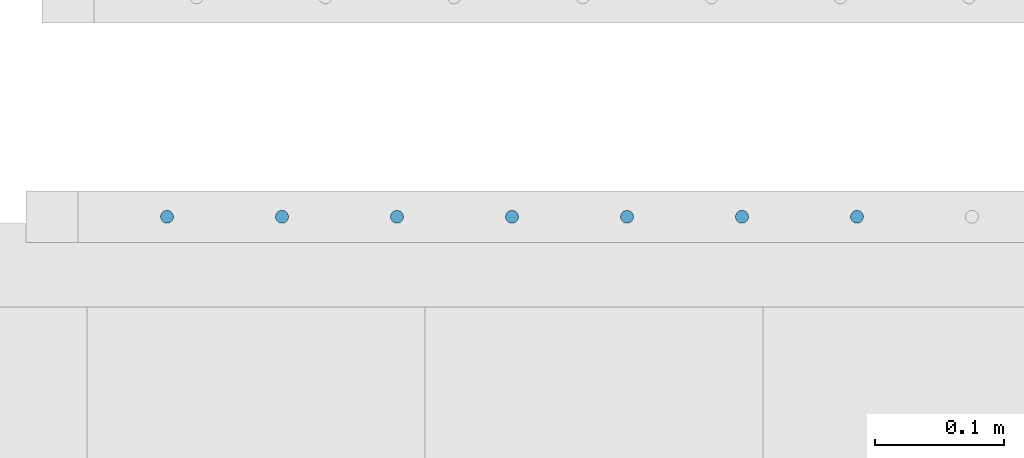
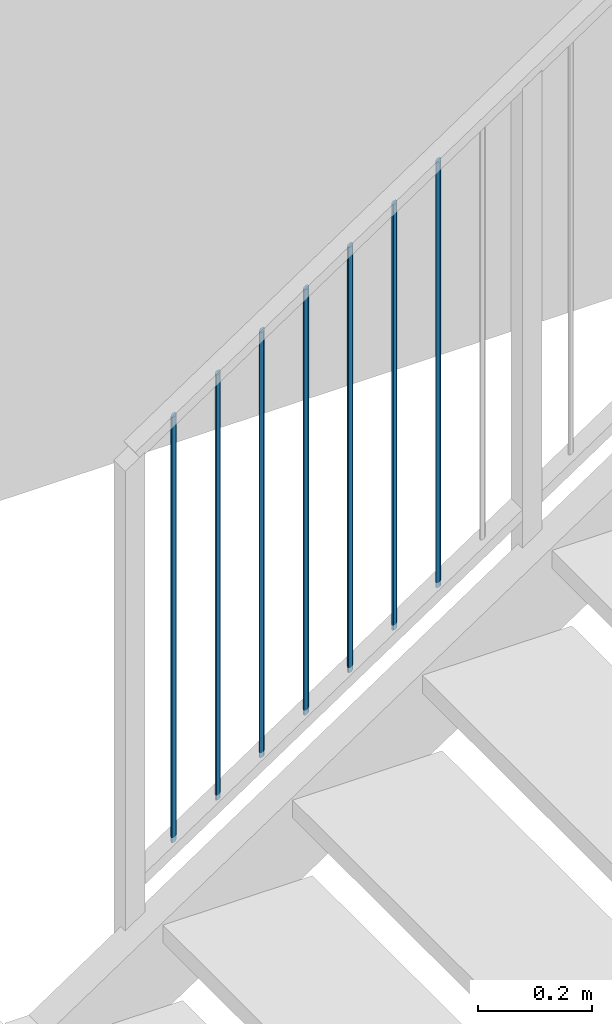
# One storey, part 6 of 117: 7 members, 1 element without a shape of its own.
"""IFC2X3 building model written with IfcOpenShell, lengths in millimetres."""

from ifc_helpers import new_model, entity, si_unit, converted_unit, derived_unit, money_unit, direction, frame, origin_with_axes, place, context, subcontext, project, spatial, faceted_brep, source, transform, mapped, material, type_object, type_shapes, element, aggregate, save


model = new_model("IFC2X3")

# Units and contexts
model_context = context("Model", 3, precision=0.01, world=origin_with_axes(), true_north=direction((0.0, 1.0)))
body_context = subcontext(model_context, "Body", "Model", "MODEL_VIEW")
ifc_project = project(units=[si_unit("LENGTHUNIT", "METRE", prefix="MILLI"), si_unit("AREAUNIT", "SQUARE_METRE"), si_unit("VOLUMEUNIT", "CUBIC_METRE"), converted_unit("PLANEANGLEUNIT", "DEGREE", entity("IfcPlaneAngleMeasure", 0.0174532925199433), si_unit("PLANEANGLEUNIT", "RADIAN"), dimensions=[0, 0, 0, 0, 0, 0, 0]), money_unit("EUR"), converted_unit("TIMEUNIT", "Year", entity("IfcTimeMeasure", 31557600.0), si_unit("TIMEUNIT", "SECOND"), dimensions=[0, 0, 1, 0, 0, 0, 0]), si_unit("MASSUNIT", "GRAM", prefix="KILO"), si_unit("THERMODYNAMICTEMPERATUREUNIT", "DEGREE_CELSIUS"), si_unit("LUMINOUSINTENSITYUNIT", "LUMEN"), si_unit("ENERGYUNIT", "JOULE", prefix="MEGA"), derived_unit("THERMALCONDUCTANCEUNIT", [(si_unit("POWERUNIT", "WATT"), 1), (si_unit("LENGTHUNIT", "METRE"), -1), (si_unit("THERMODYNAMICTEMPERATUREUNIT", "KELVIN"), -1)]), derived_unit("SPECIFICHEATCAPACITYUNIT", [(si_unit("ENERGYUNIT", "JOULE"), 1), (si_unit("MASSUNIT", "GRAM", prefix="KILO"), -1), (si_unit("THERMODYNAMICTEMPERATUREUNIT", "KELVIN"), -1)]), derived_unit("MASSDENSITYUNIT", [(si_unit("MASSUNIT", "GRAM", prefix="KILO"), 1), (si_unit("VOLUMEUNIT", "CUBIC_METRE"), -1)])], contexts=[model_context])

# Site, building, storey
site_placement = place(None, origin_with_axes())
site = spatial("IfcSite", under=ifc_project, at=site_placement, Name="Site", CompositionType="ELEMENT")
building_placement = place(site_placement, origin_with_axes())
building = spatial("IfcBuilding", under=site, at=building_placement, Name="Naam gebouw", CompositionType="ELEMENT")
storey_placement = place(building_placement, frame((0.0, 0.0, 4150.0), z_axis=(0.0, 0.0, 1.0), x_axis=(1.0, 0.0, 0.0)))
storey = spatial("IfcBuildingStorey", under=building, at=storey_placement, Name="1e verdieping N", CompositionType="ELEMENT", Elevation=4150.0)

# Railing, members
railing_type = type_object("IfcRailingType", Name="Railing Type", PredefinedType="NOTDEFINED")
railing_placement = place(storey_placement, frame((56130.0, 22285.9124251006, 163.6876419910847), z_axis=(0.0, 0.0, 1.0), x_axis=(1.0, 0.0, 0.0)))
railing = element("IfcRailing", 1, at=railing_placement, inside=storey, type_object=railing_type, Name="_Reling-x", PredefinedType="NOTDEFINED")
ifc_material = material(Name="Metaal - Staal C")
member_type = type_object("IfcMemberType", Name="IfcMember", PredefinedType="MEMBER")
shared_shape = source(origin_with_axes(), body_context, "Body", "Brep", [
    faceted_brep([(0.0, -5.000000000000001, -3.340321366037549), (0.8682408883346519, -4.924038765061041, -3.289574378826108), (0.8682408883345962, -4.924038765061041, 904.2104256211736), (0.0, -5.000000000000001, 904.1596786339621), (-0.8682408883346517, -4.924038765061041, -3.289574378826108), (-1.710100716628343, -4.698463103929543, -3.13887533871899), (-2.500000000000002, -4.330127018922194, -2.892803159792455), (-3.213938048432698, -3.83022221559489, -2.558834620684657), (-3.830222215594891, -3.213938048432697, -2.147117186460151), (-4.330127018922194, -2.500000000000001, -1.670160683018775), (-4.698463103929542, -1.710100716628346, -1.142457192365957), (-4.924038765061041, -0.8682408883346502, -0.5800407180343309), (-5.0, 0.0, 0.0), (-4.92403876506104, 0.8682408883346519, 0.5800407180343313), (-4.698463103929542, 1.710100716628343, 1.142457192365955), (-4.330127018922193, 2.500000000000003, 1.670160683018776), (-3.83022221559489, 3.213938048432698, 2.147117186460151), (-3.213938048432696, 3.830222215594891, 2.558834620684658), (-2.5, 4.330127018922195, 2.892803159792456), (-1.710100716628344, 4.698463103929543, 3.13887533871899), (-0.8682408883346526, 4.924038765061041, 3.289574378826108), (0.0, 5.000000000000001, 3.340321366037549), (0.8682408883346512, 4.924038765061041, 3.289574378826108), (1.710100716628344, 4.698463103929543, 3.13887533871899), (2.5, 4.330127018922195, 2.892803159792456), (3.213938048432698, 3.83022221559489, 2.558834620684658), (3.83022221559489, 3.213938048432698, 2.147117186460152), (4.330127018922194, 2.499999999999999, 1.670160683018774), (4.698463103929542, 1.710100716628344, 1.142457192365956), (4.92403876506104, 0.8682408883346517, 0.580040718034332), (5.0, 0.0, 0.0), (4.92403876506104, -0.8682408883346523, -0.5800407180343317), (4.698463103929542, -1.710100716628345, -1.142457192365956), (4.330127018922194, -2.500000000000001, -1.670160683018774), (3.83022221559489, -3.213938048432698, -2.147117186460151), (3.213938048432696, -3.830222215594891, -2.558834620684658), (2.5, -4.330127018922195, -2.892803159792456), (1.710100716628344, -4.698463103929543, -3.13887533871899), (1.710100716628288, -4.698463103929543, 904.3611246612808), (2.499999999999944, -4.330127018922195, 904.6071968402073), (3.213938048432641, -3.830222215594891, 904.9411653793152), (3.830222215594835, -3.213938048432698, 905.3528828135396), (4.330127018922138, -2.500000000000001, 905.8298393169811), (4.698463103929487, -1.710100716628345, 906.3575428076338), (4.924038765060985, -0.8682408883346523, 906.9199592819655), (4.999999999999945, 0.0, 907.4999999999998), (4.924038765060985, 0.8682408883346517, 908.0800407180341), (4.698463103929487, 1.710100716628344, 908.6424571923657), (4.330127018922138, 2.499999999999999, 909.1701606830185), (3.830222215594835, 3.213938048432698, 909.6471171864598), (3.213938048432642, 3.83022221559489, 910.0588346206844), (2.499999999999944, 4.330127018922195, 910.3928031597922), (1.710100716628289, 4.698463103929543, 910.6388753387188), (0.8682408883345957, 4.924038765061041, 910.7895743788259), (0.0, 5.000000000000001, 910.8403213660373), (-0.8682408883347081, 4.924038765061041, 910.7895743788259), (-1.710100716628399, 4.698463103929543, 910.6388753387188), (-2.500000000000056, 4.330127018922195, 910.3928031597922), (-3.213938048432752, 3.830222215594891, 910.0588346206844), (-3.830222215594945, 3.213938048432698, 909.6471171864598), (-4.330127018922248, 2.500000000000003, 909.1701606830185), (-4.698463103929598, 1.710100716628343, 908.6424571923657), (-4.924038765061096, 0.8682408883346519, 908.0800407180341), (-5.000000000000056, 0.0, 907.4999999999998), (-4.924038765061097, -0.8682408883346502, 906.9199592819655), (-4.698463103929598, -1.710100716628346, 906.3575428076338), (-4.330127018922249, -2.500000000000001, 905.8298393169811), (-3.830222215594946, -3.213938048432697, 905.3528828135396), (-3.213938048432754, -3.83022221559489, 904.9411653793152), (-2.500000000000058, -4.330127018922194, 904.6071968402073), (-1.710100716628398, -4.698463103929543, 904.3611246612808), (-0.8682408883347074, -4.924038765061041, 904.2104256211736)], [[[0, 1, 2, 3]], [[0, 4, 5, 6, 7, 8, 9, 10, 11, 12, 13, 14, 15, 16, 17, 18, 19, 20, 21, 22, 23, 24, 25, 26, 27, 28, 29, 30, 31, 32, 33, 34, 35, 36, 37, 1]], [[1, 37, 38, 2]], [[3, 2, 38, 39, 40, 41, 42, 43, 44, 45, 46, 47, 48, 49, 50, 51, 52, 53, 54, 55, 56, 57, 58, 59, 60, 61, 62, 63, 64, 65, 66, 67, 68, 69, 70, 71]], [[4, 0, 3, 71]], [[5, 4, 71, 70]], [[6, 5, 70, 69]], [[7, 6, 69, 68]], [[8, 7, 68, 67]], [[9, 8, 67, 66]], [[10, 9, 66, 65]], [[11, 10, 65, 64]], [[12, 11, 64, 63]], [[13, 12, 63, 62]], [[14, 13, 62, 61]], [[15, 14, 61, 60]], [[16, 15, 60, 59]], [[17, 16, 59, 58]], [[18, 17, 58, 57]], [[19, 18, 57, 56]], [[20, 19, 56, 55]], [[21, 20, 55, 54]], [[22, 21, 54, 53]], [[23, 22, 53, 52]], [[24, 23, 52, 51]], [[25, 24, 51, 50]], [[26, 25, 50, 49]], [[27, 26, 49, 48]], [[28, 27, 48, 47]], [[29, 28, 47, 46]], [[30, 29, 46, 45]], [[31, 30, 45, 44]], [[32, 31, 44, 43]], [[33, 32, 43, 42]], [[34, 33, 42, 41]], [[35, 34, 41, 40]], [[36, 35, 40, 39]], [[37, 36, 39, 38]]]),
])
type_shapes(member_type, [shared_shape])
member_1_placement = place(railing_placement, frame((323.7397119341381, 24.99999999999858, 129.5157979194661), z_axis=(0.0, 0.0, 1.0), x_axis=(1.0, 0.0, 0.0)))
member_1 = element("IfcMember", 2, at=member_1_placement, type_object=member_type, material=ifc_material, Name="_Spijlen-x", ObjectType="MEMBER", context=body_context, shape_type="MappedRepresentation", body=[
    mapped(shared_shape, transform((0.0, 0.0, 0.0), x_axis=(0.0, -1.0, 0.0), y_axis=(1.0, 0.0, 0.0), z_axis=(0.0, 0.0, 1.0))),
])
member_2_placement = place(railing_placement, frame((412.8266460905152, 24.99999999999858, 189.0315958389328), z_axis=(0.0, 0.0, 1.0), x_axis=(1.0, 0.0, 0.0)))
member_2 = element("IfcMember", 3, at=member_2_placement, type_object=member_type, material=ifc_material, Name="_Spijlen-x", ObjectType="MEMBER", context=body_context, shape_type="MappedRepresentation", body=[
    mapped(shared_shape, transform((0.0, 0.0, 0.0), x_axis=(0.0, -1.0, 0.0), y_axis=(1.0, 0.0, 0.0), z_axis=(0.0, 0.0, 1.0))),
])
member_3_placement = place(railing_placement, frame((501.9135802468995, 24.99999999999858, 248.5473937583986), z_axis=(0.0, 0.0, 1.0), x_axis=(1.0, 0.0, 0.0)))
member_3 = element("IfcMember", 4, at=member_3_placement, type_object=member_type, material=ifc_material, Name="_Spijlen-x", ObjectType="MEMBER", context=body_context, shape_type="MappedRepresentation", body=[
    mapped(shared_shape, transform((0.0, 0.0, 0.0), x_axis=(0.0, -1.0, 0.0), y_axis=(1.0, 0.0, 0.0), z_axis=(0.0, 0.0, 1.0))),
])
member_4_placement = place(railing_placement, frame((769.1743827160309, 24.99999999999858, 427.0947875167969), z_axis=(0.0, 0.0, 1.0), x_axis=(1.0, 0.0, 0.0)))
member_4 = element("IfcMember", 5, at=member_4_placement, type_object=member_type, material=ifc_material, Name="_Spijlen-x", ObjectType="MEMBER", context=body_context, shape_type="MappedRepresentation", body=[
    mapped(shared_shape, transform((0.0, 0.0, 0.0), x_axis=(0.0, -1.0, 0.0), y_axis=(1.0, 0.0, 0.0), z_axis=(0.0, 0.0, 1.0))),
])
member_5_placement = place(railing_placement, frame((680.0874485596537, 24.99999999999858, 367.5789895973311), z_axis=(0.0, 0.0, 1.0), x_axis=(1.0, 0.0, 0.0)))
member_5 = element("IfcMember", 6, at=member_5_placement, type_object=member_type, material=ifc_material, Name="_Spijlen-x", ObjectType="MEMBER", context=body_context, shape_type="MappedRepresentation", body=[
    mapped(shared_shape, transform((0.0, 0.0, 0.0), x_axis=(0.0, -1.0, 0.0), y_axis=(1.0, 0.0, 0.0), z_axis=(0.0, 0.0, 1.0))),
])
member_6_placement = place(railing_placement, frame((591.0005144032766, 24.99999999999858, 308.0631916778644), z_axis=(0.0, 0.0, 1.0), x_axis=(1.0, 0.0, 0.0)))
member_6 = element("IfcMember", 7, at=member_6_placement, type_object=member_type, material=ifc_material, Name="_Spijlen-x", ObjectType="MEMBER", context=body_context, shape_type="MappedRepresentation", body=[
    mapped(shared_shape, transform((0.0, 0.0, 0.0), x_axis=(0.0, -1.0, 0.0), y_axis=(1.0, 0.0, 0.0), z_axis=(0.0, 0.0, 1.0))),
])
member_7_placement = place(railing_placement, frame((858.2613168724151, 24.99999999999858, 486.6105854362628), z_axis=(0.0, 0.0, 1.0), x_axis=(1.0, 0.0, 0.0)))
member_7 = element("IfcMember", 8, at=member_7_placement, type_object=member_type, material=ifc_material, Name="_Spijlen-x", ObjectType="MEMBER", context=body_context, shape_type="MappedRepresentation", body=[
    mapped(shared_shape, transform((0.0, 0.0, 0.0), x_axis=(0.0, -1.0, 0.0), y_axis=(1.0, 0.0, 0.0), z_axis=(0.0, 0.0, 1.0))),
])
aggregate(railing, [member_1, member_2, member_3, member_4, member_5, member_6, member_7])

save(model, "model.ifc")
